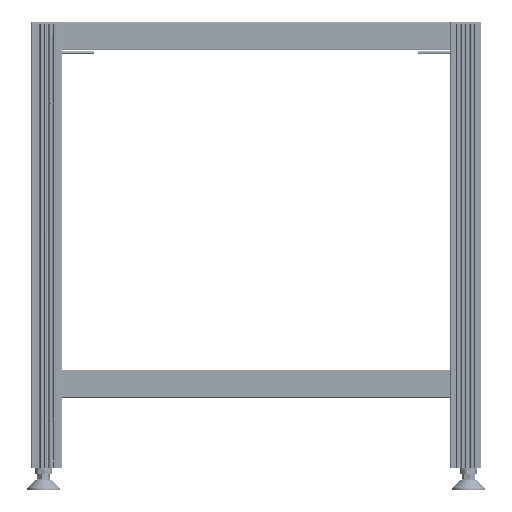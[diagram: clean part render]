
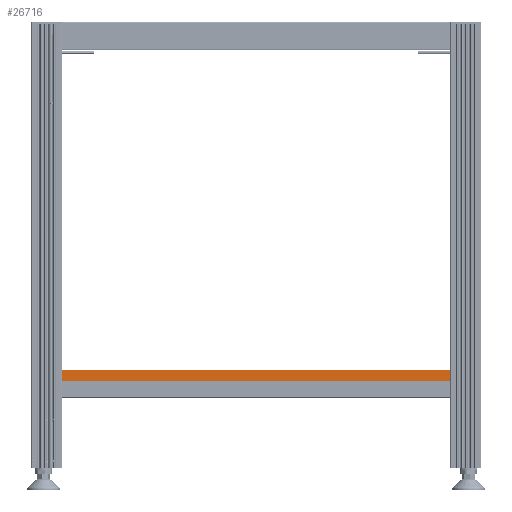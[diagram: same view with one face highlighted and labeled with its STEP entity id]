
A CAD part, front view. The second image highlights one B-rep face of the part: STEP entity #26716.
In plain terms, the highlighted planar face has unit normal (0, -1, 0) as drawn and (-1, 0, 0) by its records, which use the part's own axes.
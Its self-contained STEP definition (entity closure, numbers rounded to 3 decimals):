
#919=PLANE('',#29420);
#2123=LINE('',#41019,#4353);
#2130=LINE('',#41074,#4360);
#2174=LINE('',#41214,#4404);
#2175=LINE('',#41216,#4405);
#4353=VECTOR('',#32669,1000.);
#4360=VECTOR('',#32700,1000.);
#4404=VECTOR('',#32782,1000.);
#4405=VECTOR('',#32783,1000.);
#6952=ORIENTED_EDGE('',*,*,#14755,.T.);
#6953=ORIENTED_EDGE('',*,*,#14682,.T.);
#6954=ORIENTED_EDGE('',*,*,#14697,.T.);
#6955=ORIENTED_EDGE('',*,*,#14756,.F.);
#14682=EDGE_CURVE('',#18635,#18638,#2123,.T.);
#14697=EDGE_CURVE('',#18638,#18653,#2130,.T.);
#14755=EDGE_CURVE('',#18707,#18635,#2174,.T.);
#14756=EDGE_CURVE('',#18707,#18653,#2175,.T.);
#18635=VERTEX_POINT('',#41013);
#18638=VERTEX_POINT('',#41018);
#18653=VERTEX_POINT('',#41075);
#18707=VERTEX_POINT('',#41215);
#22546=EDGE_LOOP('',(#6952,#6953,#6954,#6955));
#24333=FACE_BOUND('',#22546,.T.);
#26716=ADVANCED_FACE('',(#24333),#919,.T.);
#29420=AXIS2_PLACEMENT_3D('',#41213,#32780,#32781);
#32669=DIRECTION('',(0.,0.,1.));
#32700=DIRECTION('',(0.,1.,0.));
#32780=DIRECTION('',(-1.,0.,0.));
#32781=DIRECTION('',(0.,0.,1.));
#32782=DIRECTION('',(0.,-1.,0.));
#32783=DIRECTION('',(0.,0.,1.));
#41013=CARTESIAN_POINT('',(0.,1.,0.));
#41018=CARTESIAN_POINT('',(0.,1.,550.));
#41019=CARTESIAN_POINT('',(0.,1.,-1.));
#41074=CARTESIAN_POINT('',(0.,0.,550.));
#41075=CARTESIAN_POINT('',(0.,16.,550.));
#41213=CARTESIAN_POINT('',(0.,0.,-1.));
#41214=CARTESIAN_POINT('',(0.,20.,0.));
#41215=CARTESIAN_POINT('',(0.,16.,0.));
#41216=CARTESIAN_POINT('',(0.,16.,-1.));
